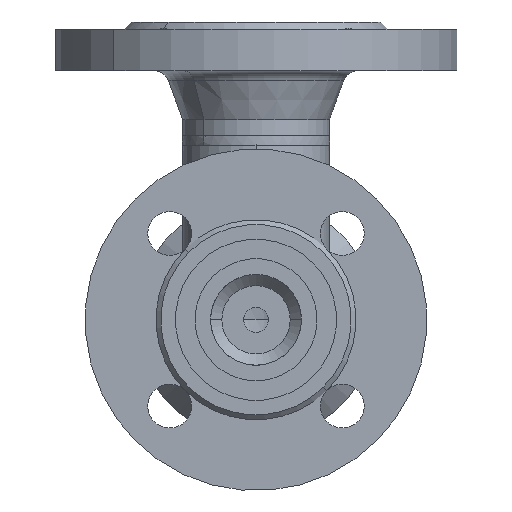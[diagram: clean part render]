
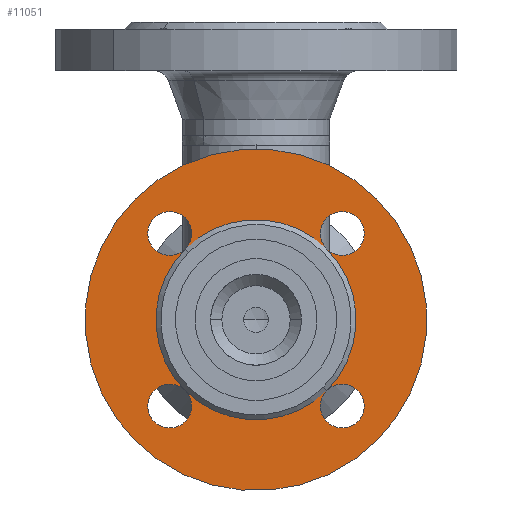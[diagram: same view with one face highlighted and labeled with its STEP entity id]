
A CAD part, front view. The second image highlights one B-rep face of the part: STEP entity #11051.
In plain terms, the highlighted planar face has unit normal (0, -1, 0).
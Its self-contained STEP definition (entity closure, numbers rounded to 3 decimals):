
#318 = ORIENTED_EDGE ( 'NONE', *, *, #14362, .T. ) ;
#847 = EDGE_CURVE ( 'NONE', #9146, #1739, #12150, .T. ) ;
#848 = ORIENTED_EDGE ( 'NONE', *, *, #847, .T. ) ;
#1085 = CARTESIAN_POINT ( 'NONE',  ( -9., 2., 50. ) ) ;
#1359 = EDGE_LOOP ( 'NONE', ( #848, #318, #13840, #13309, #12402, #7014, #6540, #5466, #4935, #4406, #3503, #2975, #2455, #10843 ) ) ;
#1546 = FACE_OUTER_BOUND ( 'NONE', #11009, .T. ) ;
#1547 = FACE_BOUND ( 'NONE', #1359, .T. ) ;
#1548 = PLANE ( 'NONE',  #1549 ) ;
#1549 = AXIS2_PLACEMENT_3D ( 'NONE', #1550, #1551, #1554 ) ;
#1550 = CARTESIAN_POINT ( 'NONE',  ( 41., 2., 0. ) ) ;
#1551 = DIRECTION ( 'NONE',  ( 0., 1., 0. ) ) ;
#1552 = VERTEX_POINT ( 'NONE', #12998 ) ;
#1554 = DIRECTION ( 'NONE',  ( -1., 0., 0. ) ) ;
#1603 = ORIENTED_EDGE ( 'NONE', *, *, #11280, .F. ) ;
#1739 = VERTEX_POINT ( 'NONE', #13155 ) ;
#1775 = VERTEX_POINT ( 'NONE', #13172 ) ;
#1956 = EDGE_CURVE ( 'NONE', #1739, #1775, #13372, .T. ) ;
#1994 = EDGE_CURVE ( 'NONE', #1775, #1552, #13407, .T. ) ;
#2454 = VERTEX_POINT ( 'NONE', #1085 ) ;
#2455 = ORIENTED_EDGE ( 'NONE', *, *, #10924, .T. ) ;
#2675 = CARTESIAN_POINT ( 'NONE',  ( 70., 2., 0. ) ) ;
#2727 = CIRCLE ( 'NONE', #2728, 9. ) ;
#2728 = AXIS2_PLACEMENT_3D ( 'NONE', #2729, #2730, #2731 ) ;
#2729 = CARTESIAN_POINT ( 'NONE',  ( 0., 2., 50. ) ) ;
#2730 = DIRECTION ( 'NONE',  ( 0., 1., 0. ) ) ;
#2731 = DIRECTION ( 'NONE',  ( -1., 0., 0. ) ) ;
#2801 = CARTESIAN_POINT ( 'NONE',  ( -70., 2., 0. ) ) ;
#2945 = CIRCLE ( 'NONE', #2946, 70. ) ;
#2946 = AXIS2_PLACEMENT_3D ( 'NONE', #2947, #2948, #2949 ) ;
#2947 = CARTESIAN_POINT ( 'NONE',  ( 0., 2., 0. ) ) ;
#2948 = DIRECTION ( 'NONE',  ( 0., 1., 0. ) ) ;
#2949 = DIRECTION ( 'NONE',  ( -1., 0., 0. ) ) ;
#2975 = ORIENTED_EDGE ( 'NONE', *, *, #10860, .T. ) ;
#3241 = CIRCLE ( 'NONE', #3242, 70. ) ;
#3242 = AXIS2_PLACEMENT_3D ( 'NONE', #3243, #3244, #3245 ) ;
#3243 = CARTESIAN_POINT ( 'NONE',  ( 0., 2., 0. ) ) ;
#3244 = DIRECTION ( 'NONE',  ( 0., 1., 0. ) ) ;
#3245 = DIRECTION ( 'NONE',  ( -1., 0., 0. ) ) ;
#3503 = ORIENTED_EDGE ( 'NONE', *, *, #6287, .T. ) ;
#4034 = EDGE_CURVE ( 'NONE', #2454, #6060, #2727, .T. ) ;
#4406 = ORIENTED_EDGE ( 'NONE', *, *, #4034, .T. ) ;
#4935 = ORIENTED_EDGE ( 'NONE', *, *, #10847, .T. ) ;
#5466 = ORIENTED_EDGE ( 'NONE', *, *, #10318, .T. ) ;
#5616 = VERTEX_POINT ( 'NONE', #5943 ) ;
#5744 = EDGE_CURVE ( 'NONE', #5616, #5934, #6143, .T. ) ;
#5840 = VERTEX_POINT ( 'NONE', #6208 ) ;
#5934 = VERTEX_POINT ( 'NONE', #6248 ) ;
#5943 = CARTESIAN_POINT ( 'NONE',  ( 9., 2., -50. ) ) ;
#6060 = VERTEX_POINT ( 'NONE', #6328 ) ;
#6143 = CIRCLE ( 'NONE', #6144, 9. ) ;
#6144 = AXIS2_PLACEMENT_3D ( 'NONE', #6145, #6146, #6147 ) ;
#6145 = CARTESIAN_POINT ( 'NONE',  ( 0., 2., -50. ) ) ;
#6146 = DIRECTION ( 'NONE',  ( 0., 1., 0. ) ) ;
#6147 = DIRECTION ( 'NONE',  ( -1., 0., 0. ) ) ;
#6159 = EDGE_CURVE ( 'NONE', #1552, #1775, #6439, .T. ) ;
#6208 = CARTESIAN_POINT ( 'NONE',  ( 0., 2., 41. ) ) ;
#6248 = CARTESIAN_POINT ( 'NONE',  ( -9., 2., -50. ) ) ;
#6287 = EDGE_CURVE ( 'NONE', #6060, #5840, #6608, .T. ) ;
#6328 = CARTESIAN_POINT ( 'NONE',  ( 9., 2., 50. ) ) ;
#6439 = CIRCLE ( 'NONE', #6440, 9. ) ;
#6440 = AXIS2_PLACEMENT_3D ( 'NONE', #6442, #6443, #6444 ) ;
#6442 = CARTESIAN_POINT ( 'NONE',  ( -50., 2., 0. ) ) ;
#6443 = DIRECTION ( 'NONE',  ( 0., 1., 0. ) ) ;
#6444 = DIRECTION ( 'NONE',  ( -1., 0., 0. ) ) ;
#6540 = ORIENTED_EDGE ( 'NONE', *, *, #6159, .T. ) ;
#6608 = CIRCLE ( 'NONE', #6609, 9. ) ;
#6609 = AXIS2_PLACEMENT_3D ( 'NONE', #6610, #6611, #6612 ) ;
#6610 = CARTESIAN_POINT ( 'NONE',  ( 0., 2., 50. ) ) ;
#6611 = DIRECTION ( 'NONE',  ( 0., 1., 0. ) ) ;
#6612 = DIRECTION ( 'NONE',  ( -1., 0., 0. ) ) ;
#7014 = ORIENTED_EDGE ( 'NONE', *, *, #1994, .T. ) ;
#8208 = CIRCLE ( 'NONE', #8209, 9. ) ;
#8209 = AXIS2_PLACEMENT_3D ( 'NONE', #8210, #8211, #8212 ) ;
#8210 = CARTESIAN_POINT ( 'NONE',  ( 0., 2., -50. ) ) ;
#8211 = DIRECTION ( 'NONE',  ( 0., 1., 0. ) ) ;
#8212 = DIRECTION ( 'NONE',  ( -1., 0., 0. ) ) ;
#9146 = VERTEX_POINT ( 'NONE', #9262 ) ;
#9262 = CARTESIAN_POINT ( 'NONE',  ( 41., 2., 0. ) ) ;
#9378 = VERTEX_POINT ( 'NONE', #9460 ) ;
#9460 = CARTESIAN_POINT ( 'NONE',  ( 59., 2., 0. ) ) ;
#9603 = EDGE_CURVE ( 'NONE', #9378, #9146, #9664, .T. ) ;
#9635 = CIRCLE ( 'NONE', #9636, 9. ) ;
#9636 = AXIS2_PLACEMENT_3D ( 'NONE', #9637, #9638, #9639 ) ;
#9637 = CARTESIAN_POINT ( 'NONE',  ( 0., 2., -50. ) ) ;
#9638 = DIRECTION ( 'NONE',  ( 0., 1., 0. ) ) ;
#9639 = DIRECTION ( 'NONE',  ( -1., 0., 0. ) ) ;
#9664 = CIRCLE ( 'NONE', #9665, 9. ) ;
#9665 = AXIS2_PLACEMENT_3D ( 'NONE', #9666, #9667, #9668 ) ;
#9666 = CARTESIAN_POINT ( 'NONE',  ( 50., 2., 0. ) ) ;
#9667 = DIRECTION ( 'NONE',  ( 0., 1., 0. ) ) ;
#9668 = DIRECTION ( 'NONE',  ( -1., 0., 0. ) ) ;
#10318 = EDGE_CURVE ( 'NONE', #1775, #5840, #10346, .T. ) ;
#10346 = CIRCLE ( 'NONE', #10347, 41. ) ;
#10347 = AXIS2_PLACEMENT_3D ( 'NONE', #10348, #10349, #10350 ) ;
#10348 = CARTESIAN_POINT ( 'NONE',  ( 0., 2., 0. ) ) ;
#10349 = DIRECTION ( 'NONE',  ( 0., 1., 0. ) ) ;
#10350 = DIRECTION ( 'NONE',  ( -1., 0., 0. ) ) ;
#10843 = ORIENTED_EDGE ( 'NONE', *, *, #9603, .T. ) ;
#10847 = EDGE_CURVE ( 'NONE', #5840, #2454, #12984, .T. ) ;
#10860 = EDGE_CURVE ( 'NONE', #5840, #9146, #13019, .T. ) ;
#10924 = EDGE_CURVE ( 'NONE', #9146, #9378, #13413, .T. ) ;
#10952 = ORIENTED_EDGE ( 'NONE', *, *, #11258, .F. ) ;
#11009 = EDGE_LOOP ( 'NONE', ( #10952, #1603 ) ) ;
#11051 = ADVANCED_FACE ( 'NONE', ( #1546, #1547 ), #1548, .F. ) ;
#11191 = VERTEX_POINT ( 'NONE', #2675 ) ;
#11218 = VERTEX_POINT ( 'NONE', #2801 ) ;
#11258 = EDGE_CURVE ( 'NONE', #11218, #11191, #2945, .T. ) ;
#11280 = EDGE_CURVE ( 'NONE', #11191, #11218, #3241, .T. ) ;
#12150 = CIRCLE ( 'NONE', #12151, 41. ) ;
#12151 = AXIS2_PLACEMENT_3D ( 'NONE', #12152, #12153, #12154 ) ;
#12152 = CARTESIAN_POINT ( 'NONE',  ( 0., 2., 0. ) ) ;
#12153 = DIRECTION ( 'NONE',  ( 0., 1., 0. ) ) ;
#12154 = DIRECTION ( 'NONE',  ( -1., 0., 0. ) ) ;
#12402 = ORIENTED_EDGE ( 'NONE', *, *, #1956, .T. ) ;
#12930 = EDGE_CURVE ( 'NONE', #5934, #1739, #8208, .T. ) ;
#12984 = CIRCLE ( 'NONE', #12985, 9. ) ;
#12985 = AXIS2_PLACEMENT_3D ( 'NONE', #12986, #12987, #12988 ) ;
#12986 = CARTESIAN_POINT ( 'NONE',  ( 0., 2., 50. ) ) ;
#12987 = DIRECTION ( 'NONE',  ( 0., 1., 0. ) ) ;
#12988 = DIRECTION ( 'NONE',  ( -1., 0., 0. ) ) ;
#12998 = CARTESIAN_POINT ( 'NONE',  ( -59., 2., 0. ) ) ;
#13019 = CIRCLE ( 'NONE', #13020, 41. ) ;
#13020 = AXIS2_PLACEMENT_3D ( 'NONE', #13021, #13022, #13023 ) ;
#13021 = CARTESIAN_POINT ( 'NONE',  ( 0., 2., 0. ) ) ;
#13022 = DIRECTION ( 'NONE',  ( 0., 1., 0. ) ) ;
#13023 = DIRECTION ( 'NONE',  ( -1., 0., 0. ) ) ;
#13155 = CARTESIAN_POINT ( 'NONE',  ( 0., 2., -41. ) ) ;
#13172 = CARTESIAN_POINT ( 'NONE',  ( -41., 2., 0. ) ) ;
#13309 = ORIENTED_EDGE ( 'NONE', *, *, #12930, .T. ) ;
#13372 = CIRCLE ( 'NONE', #13373, 41. ) ;
#13373 = AXIS2_PLACEMENT_3D ( 'NONE', #13374, #13375, #13376 ) ;
#13374 = CARTESIAN_POINT ( 'NONE',  ( 0., 2., 0. ) ) ;
#13375 = DIRECTION ( 'NONE',  ( 0., 1., 0. ) ) ;
#13376 = DIRECTION ( 'NONE',  ( -1., 0., 0. ) ) ;
#13407 = CIRCLE ( 'NONE', #13409, 9. ) ;
#13409 = AXIS2_PLACEMENT_3D ( 'NONE', #13410, #13411, #13412 ) ;
#13410 = CARTESIAN_POINT ( 'NONE',  ( -50., 2., 0. ) ) ;
#13411 = DIRECTION ( 'NONE',  ( 0., 1., 0. ) ) ;
#13412 = DIRECTION ( 'NONE',  ( -1., 0., 0. ) ) ;
#13413 = CIRCLE ( 'NONE', #13414, 9. ) ;
#13414 = AXIS2_PLACEMENT_3D ( 'NONE', #13415, #13416, #13417 ) ;
#13415 = CARTESIAN_POINT ( 'NONE',  ( 50., 2., 0. ) ) ;
#13416 = DIRECTION ( 'NONE',  ( 0., 1., 0. ) ) ;
#13417 = DIRECTION ( 'NONE',  ( -1., 0., 0. ) ) ;
#13840 = ORIENTED_EDGE ( 'NONE', *, *, #5744, .T. ) ;
#14362 = EDGE_CURVE ( 'NONE', #1739, #5616, #9635, .T. ) ;
